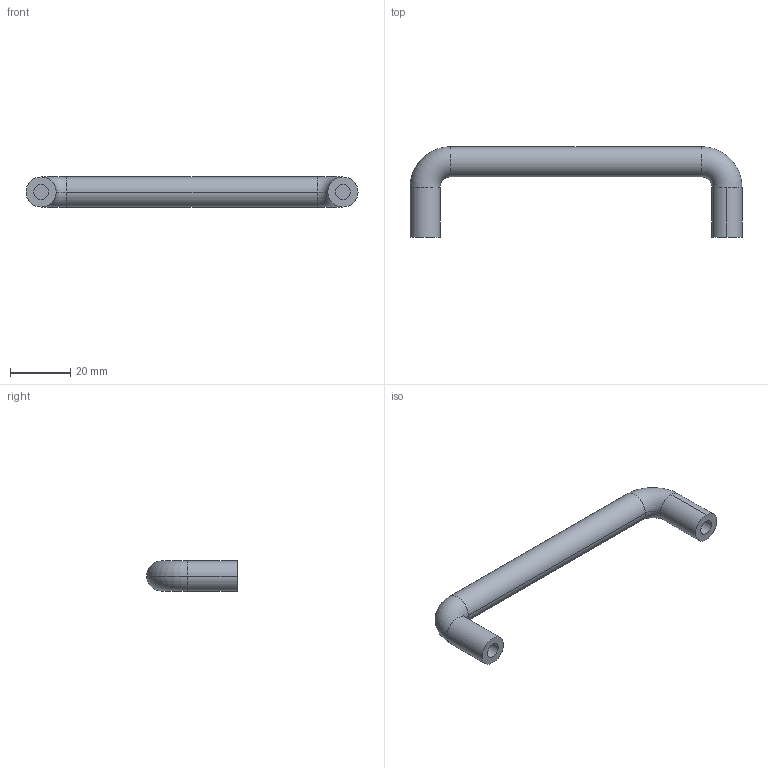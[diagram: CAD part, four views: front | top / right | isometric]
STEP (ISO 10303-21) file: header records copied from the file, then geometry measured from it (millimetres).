
FILE_DESCRIPTION (( 'STEP AP214' ), '1' );
FILE_NAME ('A84 KA-1251-7.STEP', '2012-02-22T01:58:43', ( '' ), ( '' ), 'SwSTEP 2.0', 'SolidWorks 2012', '' );
FILE_SCHEMA (( 'AUTOMOTIVE_DESIGN' ));
Length unit declared in the file: millimetre
Products named in the file (1): A84 KA-1251-7
Bounding box: 110 x 30 x 10 mm (x, y, z)
Volume: 10775.9 mm3; surface area: 4985.8 mm2
Topology: 1 solids, 1 shells, 18 faces, 36 edges, 22 vertices
Faces by surface type: cylinder 10, torus 4, plane 4
Entity records: 512 total; most frequent: DIRECTION 100, CARTESIAN_POINT 77, ORIENTED_EDGE 72, AXIS2_PLACEMENT_3D 45, EDGE_CURVE 36, CIRCLE 26, VERTEX_POINT 22, EDGE_LOOP 20
